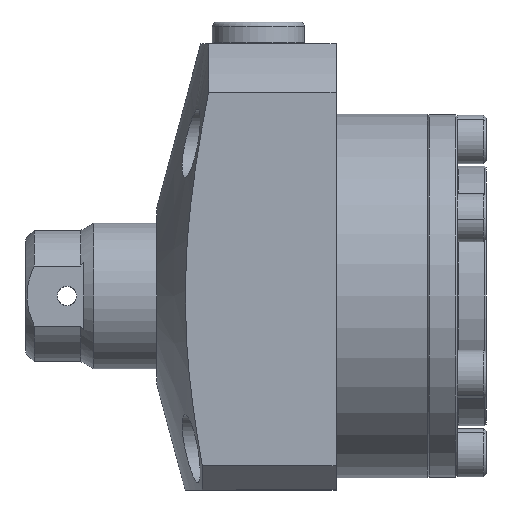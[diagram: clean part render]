
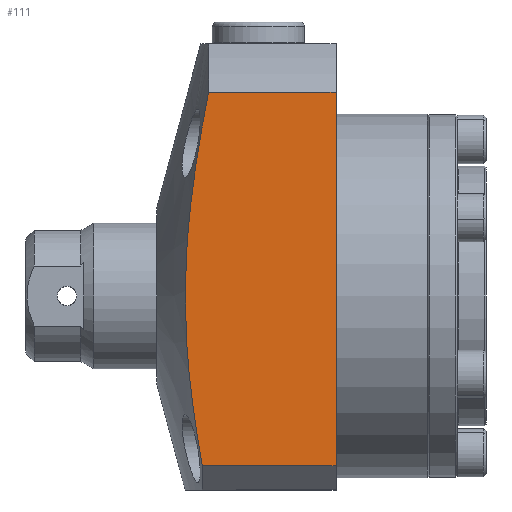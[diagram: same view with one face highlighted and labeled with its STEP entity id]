
A CAD part, left-side view. The second image highlights one B-rep face of the part: STEP entity #111.
In plain terms, the highlighted planar face has unit normal (-1, 0, 0).
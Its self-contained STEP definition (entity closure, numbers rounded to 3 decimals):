
#111 = ADVANCED_FACE ( 'NONE', ( #1927 ), #1928, .F. ) ;
#336 = B_SPLINE_CURVE_WITH_KNOTS ( 'NONE', 3,
 ( #2941, #2936, #2959, #2960, #2961, #2962, #2963, #2964, #2965, #2966, #2967, #2968, #2969, #2970, #2971, #2972, #2973, #2974, #2975, #2976 ),
 .UNSPECIFIED., .F., .F.,
 ( 4, 2, 2, 2, 2, 2, 2, 2, 2, 4 ),
 ( 0.044, 0.054, 0.064, 0.074, 0.083, 0.093, 0.098, 0.103, 0.112, 0.122 ),
 .UNSPECIFIED. ) ;
#1919 = CARTESIAN_POINT ( 'NONE',  ( -40., 37., 52. ) ) ;
#1927 = FACE_OUTER_BOUND ( 'NONE', #3910, .T. ) ;
#1928 = PLANE ( 'NONE',  #3486 ) ;
#1930 = DIRECTION ( 'NONE',  ( 1., 0., 0. ) ) ;
#1931 = DIRECTION ( 'NONE',  ( 0., 0., -1. ) ) ;
#2498 = CARTESIAN_POINT ( 'NONE',  ( -40., 0., 42. ) ) ;
#2502 = CARTESIAN_POINT ( 'NONE',  ( -40., 0., -40. ) ) ;
#2506 = LINE ( 'NONE', #2502, #4066 ) ;
#2510 = DIRECTION ( 'NONE',  ( 0., 0., -1. ) ) ;
#2511 = LINE ( 'NONE', #2498, #4070 ) ;
#2516 = DIRECTION ( 'NONE',  ( 0., 1., 0. ) ) ;
#2586 = EDGE_CURVE ( 'NONE', #3678, #3675, #2506, .T. ) ;
#2591 = EDGE_CURVE ( 'NONE', #3678, #3674, #2511, .T. ) ;
#2669 = EDGE_CURVE ( 'NONE', #3671, #3675, #2946, .T. ) ;
#2679 = EDGE_CURVE ( 'NONE', #3671, #3674, #336, .T. ) ;
#2936 = CARTESIAN_POINT ( 'NONE',  ( -40., 28.145, -31.807 ) ) ;
#2941 = CARTESIAN_POINT ( 'NONE',  ( -40., 27.581, -35. ) ) ;
#2946 = LINE ( 'NONE', #2947, #4111 ) ;
#2947 = CARTESIAN_POINT ( 'NONE',  ( -40., 37., -35. ) ) ;
#2948 = DIRECTION ( 'NONE',  ( 0., -1., 0. ) ) ;
#2959 = CARTESIAN_POINT ( 'NONE',  ( -40., 28.667, -28.602 ) ) ;
#2960 = CARTESIAN_POINT ( 'NONE',  ( -40., 29.588, -22.191 ) ) ;
#2961 = CARTESIAN_POINT ( 'NONE',  ( -40., 29.986, -18.983 ) ) ;
#2962 = CARTESIAN_POINT ( 'NONE',  ( -40., 30.617, -12.566 ) ) ;
#2963 = CARTESIAN_POINT ( 'NONE',  ( -40., 30.849, -9.355 ) ) ;
#2964 = CARTESIAN_POINT ( 'NONE',  ( -40., 31.11, -2.93 ) ) ;
#2965 = CARTESIAN_POINT ( 'NONE',  ( -40., 31.139, 0.285 ) ) ;
#2966 = CARTESIAN_POINT ( 'NONE',  ( -40., 30.989, 6.719 ) ) ;
#2967 = CARTESIAN_POINT ( 'NONE',  ( -40., 30.81, 9.938 ) ) ;
#2968 = CARTESIAN_POINT ( 'NONE',  ( -40., 30.405, 14.77 ) ) ;
#2969 = CARTESIAN_POINT ( 'NONE',  ( -40., 30.248, 16.381 ) ) ;
#2970 = CARTESIAN_POINT ( 'NONE',  ( -40., 29.894, 19.604 ) ) ;
#2971 = CARTESIAN_POINT ( 'NONE',  ( -40., 29.696, 21.217 ) ) ;
#2972 = CARTESIAN_POINT ( 'NONE',  ( -40., 29.055, 26.047 ) ) ;
#2973 = CARTESIAN_POINT ( 'NONE',  ( -40., 28.562, 29.252 ) ) ;
#2974 = CARTESIAN_POINT ( 'NONE',  ( -40., 27.483, 35.641 ) ) ;
#2975 = CARTESIAN_POINT ( 'NONE',  ( -40., 26.898, 38.824 ) ) ;
#2976 = CARTESIAN_POINT ( 'NONE',  ( -40., 26.282, 42. ) ) ;
#3486 = AXIS2_PLACEMENT_3D ( 'NONE', #1919, #1930, #1931 ) ;
#3671 = VERTEX_POINT ( 'NONE', #4428 ) ;
#3674 = VERTEX_POINT ( 'NONE', #4431 ) ;
#3675 = VERTEX_POINT ( 'NONE', #4432 ) ;
#3678 = VERTEX_POINT ( 'NONE', #4435 ) ;
#3910 = EDGE_LOOP ( 'NONE', ( #5173, #5174, #5175, #5176 ) ) ;
#4066 = VECTOR ( 'NONE', #2510, 1000. ) ;
#4070 = VECTOR ( 'NONE', #2516, 1000. ) ;
#4111 = VECTOR ( 'NONE', #2948, 1000. ) ;
#4428 = CARTESIAN_POINT ( 'NONE',  ( -40., 27.581, -35. ) ) ;
#4431 = CARTESIAN_POINT ( 'NONE',  ( -40., 26.282, 42. ) ) ;
#4432 = CARTESIAN_POINT ( 'NONE',  ( -40., 0., -35. ) ) ;
#4435 = CARTESIAN_POINT ( 'NONE',  ( -40., 0., 42. ) ) ;
#5173 = ORIENTED_EDGE ( 'NONE', *, *, #2679, .F. ) ;
#5174 = ORIENTED_EDGE ( 'NONE', *, *, #2669, .T. ) ;
#5175 = ORIENTED_EDGE ( 'NONE', *, *, #2586, .F. ) ;
#5176 = ORIENTED_EDGE ( 'NONE', *, *, #2591, .T. ) ;
